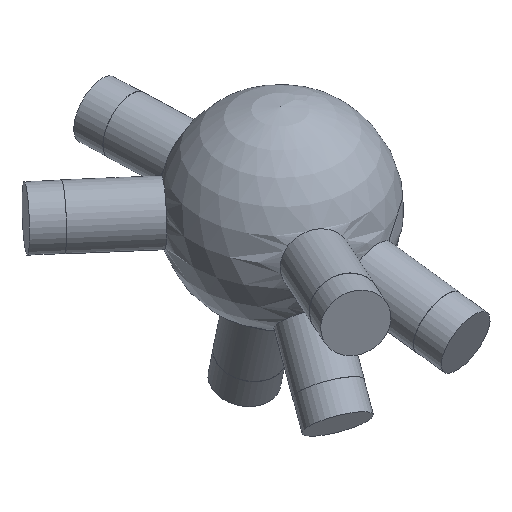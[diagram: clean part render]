
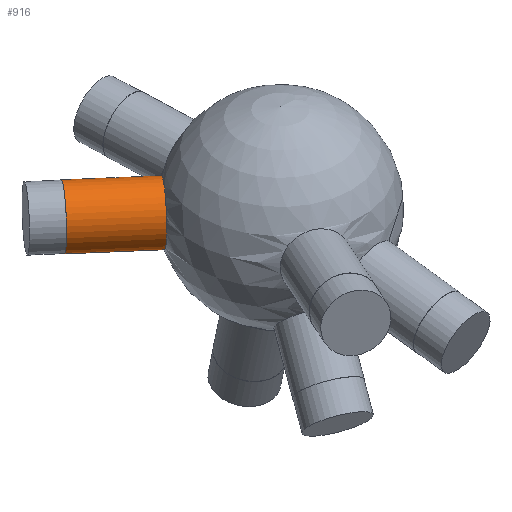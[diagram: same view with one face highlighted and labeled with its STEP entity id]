
A CAD part, isometric view. The second image highlights one B-rep face of the part: STEP entity #916.
In plain terms, the highlighted cylindrical face has radius 6 mm (diameter 12 mm), a full revolution.
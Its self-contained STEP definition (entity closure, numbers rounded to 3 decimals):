
#33 = SPHERICAL_SURFACE('',#34,20.);
#34 = AXIS2_PLACEMENT_3D('',#35,#36,#37);
#35 = CARTESIAN_POINT('',(0.,0.,0.));
#36 = DIRECTION('',(0.,0.,1.));
#37 = DIRECTION('',(1.,0.,-0.));
#416 = EDGE_CURVE('',#417,#417,#419,.T.);
#417 = VERTEX_POINT('',#418);
#418 = CARTESIAN_POINT('',(-18.57,7.417,0.386
    ));
#419 = SURFACE_CURVE('',#420,(#425,#487),.PCURVE_S1.);
#420 = CIRCLE('',#421,6.);
#421 = AXIS2_PLACEMENT_3D('',#422,#423,#424);
#422 = CARTESIAN_POINT('',(-14.775,12.065,
    0.386));
#423 = DIRECTION('',(-0.774,0.632,0.02)
  );
#424 = DIRECTION('',(-0.632,-0.775,0.)
  );
#425 = PCURVE('',#33,#426);
#426 = DEFINITIONAL_REPRESENTATION('',(#427),#486);
#427 = B_SPLINE_CURVE_WITH_KNOTS('',8,(#428,#429,#430,#431,#432,#433,
    #434,#435,#436,#437,#438,#439,#440,#441,#442,#443,#444,#445,#446,
    #447,#448,#449,#450,#451,#452,#453,#454,#455,#456,#457,#458,#459,
    #460,#461,#462,#463,#464,#465,#466,#467,#468,#469,#470,#471,#472,
    #473,#474,#475,#476,#477,#478,#479,#480,#481,#482,#483,#484,#485),
  .UNSPECIFIED.,.F.,.F.,(9,7,7,7,7,7,7,7,9),(0.,0.785,
    1.473,2.074,3.126,3.915,
    4.507,5.395,6.283),.UNSPECIFIED.);
#428 = CARTESIAN_POINT('',(2.762,0.019));
#429 = CARTESIAN_POINT('',(2.762,0.049));
#430 = CARTESIAN_POINT('',(2.759,0.078));
#431 = CARTESIAN_POINT('',(2.753,0.107));
#432 = CARTESIAN_POINT('',(2.743,0.136));
#433 = CARTESIAN_POINT('',(2.731,0.163));
#434 = CARTESIAN_POINT('',(2.716,0.188));
#435 = CARTESIAN_POINT('',(2.697,0.212));
#436 = CARTESIAN_POINT('',(2.658,0.252));
#437 = CARTESIAN_POINT('',(2.638,0.269));
#438 = CARTESIAN_POINT('',(2.616,0.284));
#439 = CARTESIAN_POINT('',(2.593,0.297));
#440 = CARTESIAN_POINT('',(2.568,0.307));
#441 = CARTESIAN_POINT('',(2.542,0.315));
#442 = CARTESIAN_POINT('',(2.515,0.321));
#443 = CARTESIAN_POINT('',(2.464,0.326));
#444 = CARTESIAN_POINT('',(2.44,0.326));
#445 = CARTESIAN_POINT('',(2.416,0.324));
#446 = CARTESIAN_POINT('',(2.393,0.32));
#447 = CARTESIAN_POINT('',(2.37,0.315));
#448 = CARTESIAN_POINT('',(2.347,0.307));
#449 = CARTESIAN_POINT('',(2.326,0.297));
#450 = CARTESIAN_POINT('',(2.27,0.266));
#451 = CARTESIAN_POINT('',(2.238,0.241));
#452 = CARTESIAN_POINT('',(2.21,0.211));
#453 = CARTESIAN_POINT('',(2.187,0.178));
#454 = CARTESIAN_POINT('',(2.17,0.141));
#455 = CARTESIAN_POINT('',(2.158,0.103));
#456 = CARTESIAN_POINT('',(2.152,0.063));
#457 = CARTESIAN_POINT('',(2.152,-0.006));
#458 = CARTESIAN_POINT('',(2.155,-0.035));
#459 = CARTESIAN_POINT('',(2.161,-0.065));
#460 = CARTESIAN_POINT('',(2.17,-0.093));
#461 = CARTESIAN_POINT('',(2.182,-0.12));
#462 = CARTESIAN_POINT('',(2.198,-0.146));
#463 = CARTESIAN_POINT('',(2.216,-0.17));
#464 = CARTESIAN_POINT('',(2.252,-0.208));
#465 = CARTESIAN_POINT('',(2.269,-0.223));
#466 = CARTESIAN_POINT('',(2.287,-0.236));
#467 = CARTESIAN_POINT('',(2.307,-0.248));
#468 = CARTESIAN_POINT('',(2.327,-0.258));
#469 = CARTESIAN_POINT('',(2.349,-0.267));
#470 = CARTESIAN_POINT('',(2.371,-0.273));
#471 = CARTESIAN_POINT('',(2.427,-0.285));
#472 = CARTESIAN_POINT('',(2.462,-0.288));
#473 = CARTESIAN_POINT('',(2.497,-0.286));
#474 = CARTESIAN_POINT('',(2.532,-0.28));
#475 = CARTESIAN_POINT('',(2.565,-0.269));
#476 = CARTESIAN_POINT('',(2.597,-0.255));
#477 = CARTESIAN_POINT('',(2.626,-0.237));
#478 = CARTESIAN_POINT('',(2.678,-0.194));
#479 = CARTESIAN_POINT('',(2.701,-0.169));
#480 = CARTESIAN_POINT('',(2.721,-0.141));
#481 = CARTESIAN_POINT('',(2.737,-0.111));
#482 = CARTESIAN_POINT('',(2.749,-0.08));
#483 = CARTESIAN_POINT('',(2.757,-0.047));
#484 = CARTESIAN_POINT('',(2.761,-0.014));
#485 = CARTESIAN_POINT('',(2.762,0.019));
#486 = ( GEOMETRIC_REPRESENTATION_CONTEXT(2) 
PARAMETRIC_REPRESENTATION_CONTEXT() REPRESENTATION_CONTEXT('2D SPACE',''
  ) );
#487 = PCURVE('',#488,#493);
#488 = CYLINDRICAL_SURFACE('',#489,6.);
#489 = AXIS2_PLACEMENT_3D('',#490,#491,#492);
#490 = CARTESIAN_POINT('',(0.,0.,0.));
#491 = DIRECTION('',(-0.774,0.632,0.02)
  );
#492 = DIRECTION('',(-0.632,-0.775,0.)
  );
#493 = DEFINITIONAL_REPRESENTATION('',(#494),#498);
#494 = LINE('',#495,#496);
#495 = CARTESIAN_POINT('',(0.,19.079));
#496 = VECTOR('',#497,1.);
#497 = DIRECTION('',(1.,0.));
#498 = ( GEOMETRIC_REPRESENTATION_CONTEXT(2) 
PARAMETRIC_REPRESENTATION_CONTEXT() REPRESENTATION_CONTEXT('2D SPACE',''
  ) );
#916 = ADVANCED_FACE('',(#917),#488,.T.);
#917 = FACE_BOUND('',#918,.T.);
#918 = EDGE_LOOP('',(#919,#942,#969,#970));
#919 = ORIENTED_EDGE('',*,*,#920,.T.);
#920 = EDGE_CURVE('',#417,#921,#923,.T.);
#921 = VERTEX_POINT('',#922);
#922 = CARTESIAN_POINT('',(-31.16,17.699,
    0.715));
#923 = SEAM_CURVE('',#924,(#928,#935),.PCURVE_S1.);
#924 = LINE('',#925,#926);
#925 = CARTESIAN_POINT('',(-3.795,-4.647,
    0.));
#926 = VECTOR('',#927,1.);
#927 = DIRECTION('',(-0.774,0.632,0.02)
  );
#928 = PCURVE('',#488,#929);
#929 = DEFINITIONAL_REPRESENTATION('',(#930),#934);
#930 = LINE('',#931,#932);
#931 = CARTESIAN_POINT('',(6.283,-0.));
#932 = VECTOR('',#933,1.);
#933 = DIRECTION('',(0.,1.));
#934 = ( GEOMETRIC_REPRESENTATION_CONTEXT(2) 
PARAMETRIC_REPRESENTATION_CONTEXT() REPRESENTATION_CONTEXT('2D SPACE',''
  ) );
#935 = PCURVE('',#488,#936);
#936 = DEFINITIONAL_REPRESENTATION('',(#937),#941);
#937 = LINE('',#938,#939);
#938 = CARTESIAN_POINT('',(0.,-0.));
#939 = VECTOR('',#940,1.);
#940 = DIRECTION('',(0.,1.));
#941 = ( GEOMETRIC_REPRESENTATION_CONTEXT(2) 
PARAMETRIC_REPRESENTATION_CONTEXT() REPRESENTATION_CONTEXT('2D SPACE',''
  ) );
#942 = ORIENTED_EDGE('',*,*,#943,.F.);
#943 = EDGE_CURVE('',#921,#921,#944,.T.);
#944 = SURFACE_CURVE('',#945,(#950,#957),.PCURVE_S1.);
#945 = CIRCLE('',#946,6.);
#946 = AXIS2_PLACEMENT_3D('',#947,#948,#949);
#947 = CARTESIAN_POINT('',(-27.365,22.346,
    0.715));
#948 = DIRECTION('',(-0.774,0.632,0.02)
  );
#949 = DIRECTION('',(-0.632,-0.775,0.)
  );
#950 = PCURVE('',#488,#951);
#951 = DEFINITIONAL_REPRESENTATION('',(#952),#956);
#952 = LINE('',#953,#954);
#953 = CARTESIAN_POINT('',(0.,35.337));
#954 = VECTOR('',#955,1.);
#955 = DIRECTION('',(1.,0.));
#956 = ( GEOMETRIC_REPRESENTATION_CONTEXT(2) 
PARAMETRIC_REPRESENTATION_CONTEXT() REPRESENTATION_CONTEXT('2D SPACE',''
  ) );
#957 = PCURVE('',#958,#963);
#958 = PLANE('',#959);
#959 = AXIS2_PLACEMENT_3D('',#960,#961,#962);
#960 = CARTESIAN_POINT('',(-27.365,22.346,
    0.715));
#961 = DIRECTION('',(-0.774,0.632,0.02)
  );
#962 = DIRECTION('',(-0.632,-0.775,0.)
  );
#963 = DEFINITIONAL_REPRESENTATION('',(#964),#968);
#964 = CIRCLE('',#965,6.);
#965 = AXIS2_PLACEMENT_2D('',#966,#967);
#966 = CARTESIAN_POINT('',(0.,0.));
#967 = DIRECTION('',(1.,0.));
#968 = ( GEOMETRIC_REPRESENTATION_CONTEXT(2) 
PARAMETRIC_REPRESENTATION_CONTEXT() REPRESENTATION_CONTEXT('2D SPACE',''
  ) );
#969 = ORIENTED_EDGE('',*,*,#920,.F.);
#970 = ORIENTED_EDGE('',*,*,#416,.T.);
